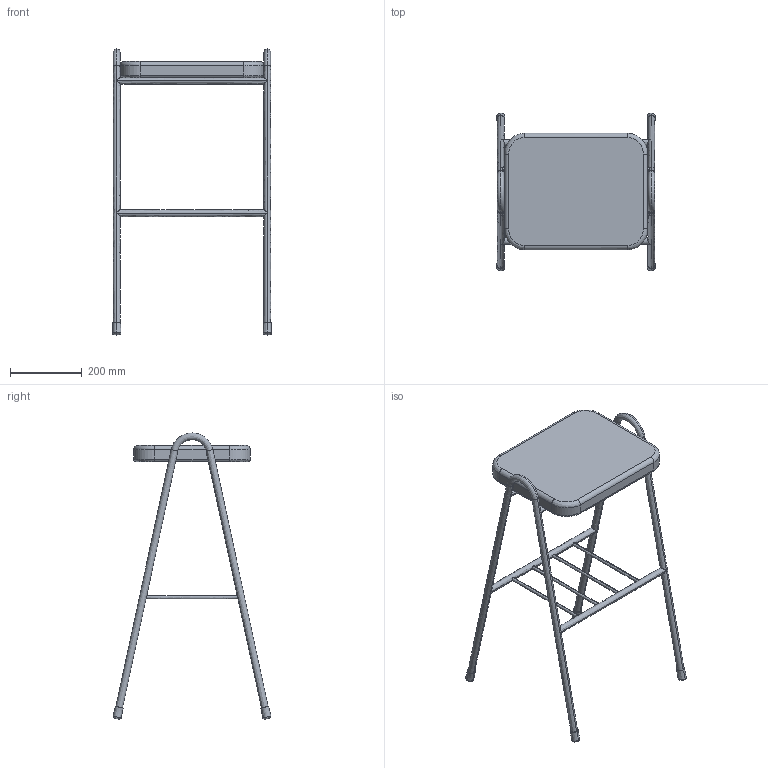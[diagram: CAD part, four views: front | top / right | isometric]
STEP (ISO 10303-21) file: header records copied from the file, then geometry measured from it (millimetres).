
FILE_DESCRIPTION(/* description */ (''),/* implementation_level */ '2;1');
FILE_NAME(/* name */ 'kinoshita_coccole_c335as',/* time_stamp */ '2024-07-16T10:09:39+09:00',/* author */ (''),/* organization */ (''),/* preprocessor_version */ 'ST-DEVELOPER v16.5',/* originating_system */ '',/* authorisation */ '');
FILE_SCHEMA (('AUTOMOTIVE_DESIGN'));
Length unit declared in the file: millimetre
Products named in the file (1): Document
Bounding box: 444.15 x 441.78 x 800.01 mm (x, y, z)
Volume: 7252746.1 mm3; surface area: 673644.8 mm2
Topology: 2 solids, 2 shells, 108 faces, 306 edges, 184 vertices
Faces by surface type: bspline 86, plane 22
Entity records: 8600 total; most frequent: CARTESIAN_POINT 6976, ORIENTED_EDGE 596, EDGE_CURVE 298, VERTEX_POINT 184, EDGE_LOOP 116, ADVANCED_FACE 108, FACE_OUTER_BOUND 108, B_SPLINE_CURVE_WITH_KNOTS 96
